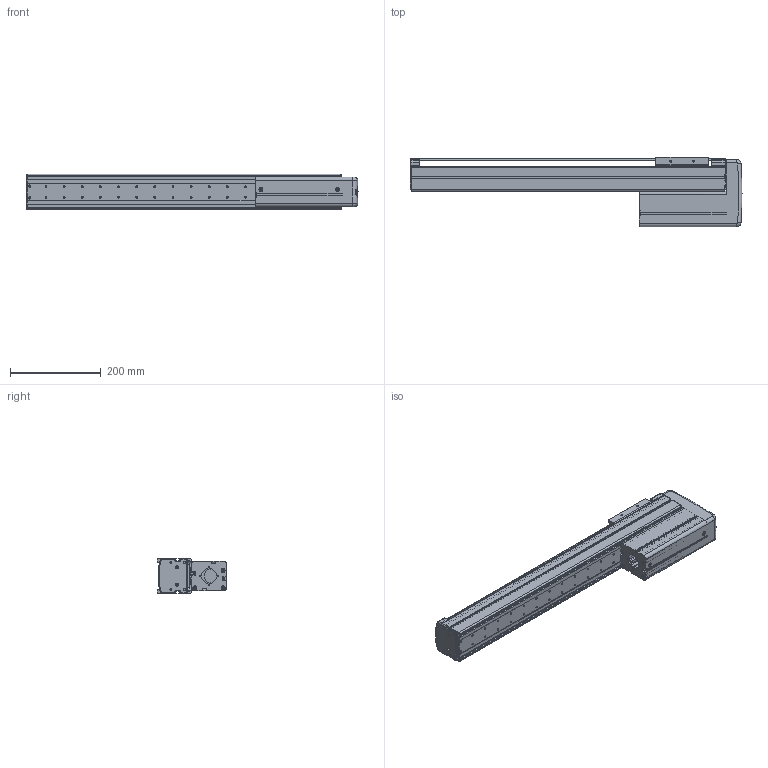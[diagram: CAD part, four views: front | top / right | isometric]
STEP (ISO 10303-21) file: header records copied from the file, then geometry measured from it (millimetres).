
FILE_DESCRIPTION((''),'2;1');
FILE_NAME('BE10E-UU-M_B-50_IGS_PRT','2017-06-17T',(' '),(''),'PRO/ENGINEER BY PARAMETRIC TECHNOLOGY CORPORATION, 2015030','PRO/ENGINEER BY PARAMETRIC TECHNOLOGY CORPORATION, 2015030','');
FILE_SCHEMA(('CONFIG_CONTROL_DESIGN'));
Length unit declared in the file: millimetre
Products named in the file (1): BE10E-UU-M_B-50_IGS_PRT
Bounding box: 732 x 153 x 78 mm (x, y, z)
Volume: 1190986.7 mm3; surface area: 818839.5 mm2
Topology: 2 solids, 109 shells, 1776 faces, 4798 edges, 3108 vertices
Faces by surface type: cylinder 841, plane 707, cone 81, torus 71, sphere 44, bspline 32
Entity records: 58034 total; most frequent: CARTESIAN_POINT 12253, DIRECTION 9924, ORIENTED_EDGE 9118, EDGE_CURVE 4762, AXIS2_PLACEMENT_3D 3689, VERTEX_POINT 3108, VECTOR 2546, LINE 2546
